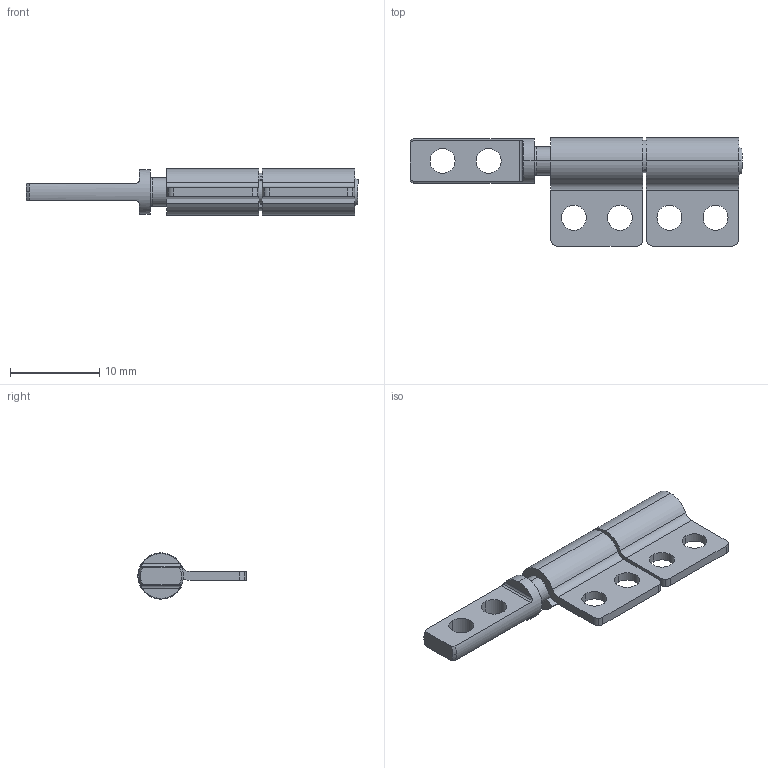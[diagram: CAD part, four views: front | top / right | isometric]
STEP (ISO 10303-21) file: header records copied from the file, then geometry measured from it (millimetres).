
FILE_DESCRIPTION(('STEP AP214'),'1');
FILE_NAME('C:/Users/HAN/Desktop/0500-0201-HNG R Rev 0_0.stp','2014-01-02T19:24:39',(' '),(' '),'Spatial InterOp 3D',' ',' ');
FILE_SCHEMA(('automotive_design'));
Length unit declared in the file: inch
Products named in the file (4): 0500-0001-BND Rev 0_0; 0500-0005-SHA Rev 0_0; Snap Ring 2000-12
Bounding box: 37.13 x 12.11 x 5.17 mm (x, y, z)
Volume: 675.8 mm3; surface area: 1374.2 mm2
Topology: 4 solids, 4 shells, 95 faces, 248 edges, 164 vertices
Faces by surface type: cylinder 58, plane 29, cone 6, torus 2
Entity records: 3839 total; most frequent: CARTESIAN_POINT 559, DIRECTION 558, ORIENTED_EDGE 496, EDGE_CURVE 248, AXIS2_PLACEMENT_3D 223, VERTEX_POINT 164, CIRCLE 124, LINE 112
